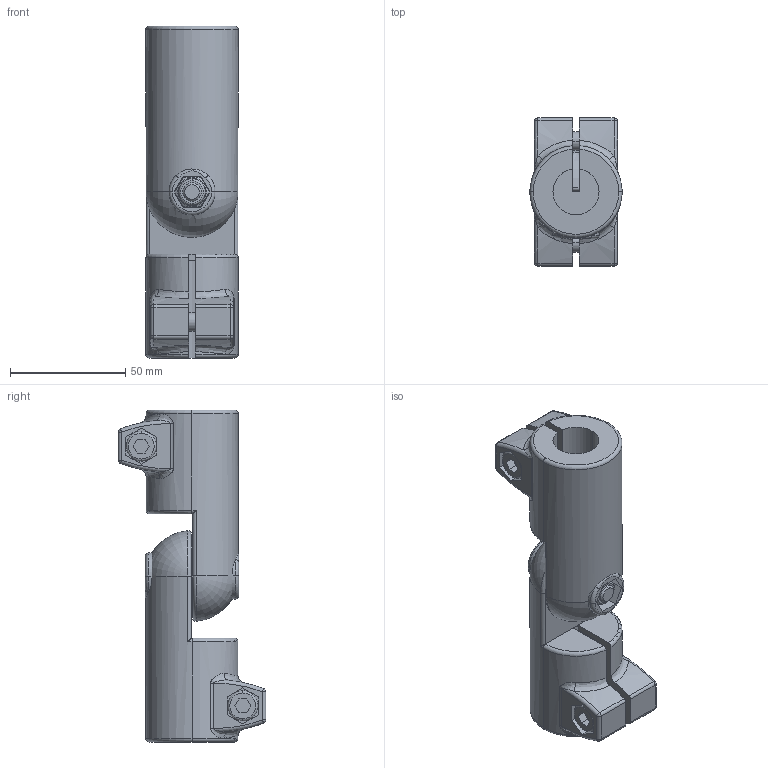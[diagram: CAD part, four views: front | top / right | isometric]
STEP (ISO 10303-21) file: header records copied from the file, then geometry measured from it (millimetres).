
FILE_DESCRIPTION (( 'STEP AP214' ), '1' );
FILE_NAME ('286-B20-B25-S-2-SW.step', '2021-12-02T12:15:50', ( '' ), ( '' ), 'SwSTEP 2.0', 'SolidWorks 2019', '' );
FILE_SCHEMA (( 'AUTOMOTIVE_DESIGN' ));
Length unit declared in the file: millimetre
Products named in the file (3): WB276_1^WB286_B25-MZ-2-SW; 286-B20-B25-S-2-SW; WB276^WB286_B20-IV-2-SW
Assembly tree (2 placements, depth 2):
  286-B20-B25-S-2-SW
    WB276^WB286_B20-IV-2-SW
    WB276_1^WB286_B25-MZ-2-SW
Bounding box: 40 x 64 x 144 mm (x, y, z)
Volume: 141547 mm3; surface area: 43026.4 mm2
Topology: 2 solids, 2 shells, 419 faces, 1016 edges, 622 vertices
Faces by surface type: plane 209, cylinder 108, torus 50, cone 24, bspline 20, sphere 8
Entity records: 15928 total; most frequent: CARTESIAN_POINT 5028, ORIENTED_EDGE 2016, DIRECTION 1968, EDGE_CURVE 1008, AXIS2_PLACEMENT_3D 764, VERTEX_POINT 622, EDGE_LOOP 454, VECTOR 440
